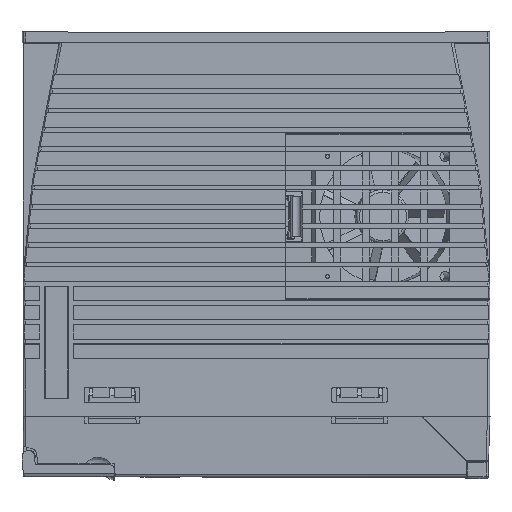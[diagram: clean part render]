
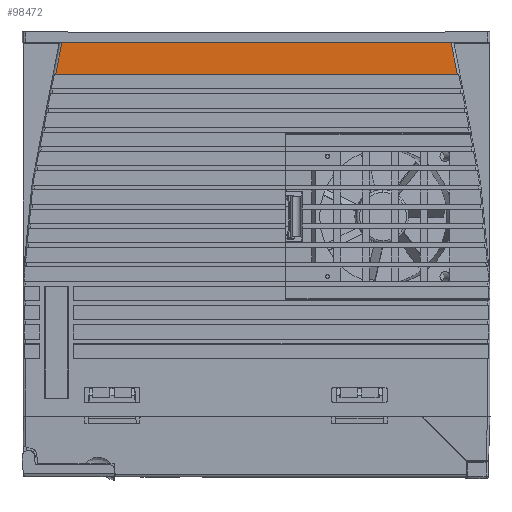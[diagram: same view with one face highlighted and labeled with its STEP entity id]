
A CAD part, left-side view. The second image highlights one B-rep face of the part: STEP entity #98472.
In plain terms, the highlighted planar face has unit normal (-1, 0, 0).
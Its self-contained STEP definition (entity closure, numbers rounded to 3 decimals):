
#9408=CARTESIAN_POINT('',(-28.,-80.86,0.379));
#10476=CARTESIAN_POINT('',(-28.,-83.426,-12.793));
#10485=DIRECTION('',(0.,-0.191,0.982));
#10486=VECTOR('',#10485,13.419);
#10487=CARTESIAN_POINT('',(-28.,83.426,-12.793));
#10488=LINE('',#10487,#10486);
#10489=DIRECTION('',(0.,-1.,0.));
#10490=VECTOR('',#10489,161.72);
#10491=CARTESIAN_POINT('',(-28.,80.86,0.379));
#10492=LINE('',#10491,#10490);
#10493=DIRECTION('',(0.,-0.191,
-0.982));
#10494=VECTOR('',#10493,13.419);
#10495=CARTESIAN_POINT('',(-28.,-80.86,0.379));
#10496=LINE('',#10495,#10494);
#10497=DIRECTION('',(0.,1.,0.));
#10498=VECTOR('',#10497,166.852);
#10499=CARTESIAN_POINT('',(-28.,-83.426,-12.793));
#10500=LINE('',#10499,#10498);
#62810=VERTEX_POINT('',#9408);
#62811=CARTESIAN_POINT('',(-28.,80.86,0.379));
#62812=VERTEX_POINT('',#62811);
#62834=VERTEX_POINT('',#10476);
#62867=CARTESIAN_POINT('',(-28.,83.426,-12.793));
#62868=VERTEX_POINT('',#62867);
#98460=CARTESIAN_POINT('',(-28.,0.,0.));
#98461=DIRECTION('',(-1.,0.,0.));
#98462=DIRECTION('',(0.,0.,1.));
#98463=AXIS2_PLACEMENT_3D('',#98460,#98461,#98462);
#98464=PLANE('',#98463);
#98465=ORIENTED_EDGE('',*,*,#98380,.T.);
#98466=ORIENTED_EDGE('',*,*,#96392,.T.);
#98468=ORIENTED_EDGE('',*,*,#98467,.T.);
#98469=ORIENTED_EDGE('',*,*,#98445,.T.);
#98470=EDGE_LOOP('',(#98465,#98466,#98468,#98469));
#98471=FACE_OUTER_BOUND('',#98470,.F.);
#98472=ADVANCED_FACE('',(#98471),#98464,.T.);
#96392=EDGE_CURVE('',#62812,#62810,#10492,.T.);
#98380=EDGE_CURVE('',#62868,#62812,#10488,.T.);
#98445=EDGE_CURVE('',#62834,#62868,#10500,.T.);
#98467=EDGE_CURVE('',#62810,#62834,#10496,.T.);
